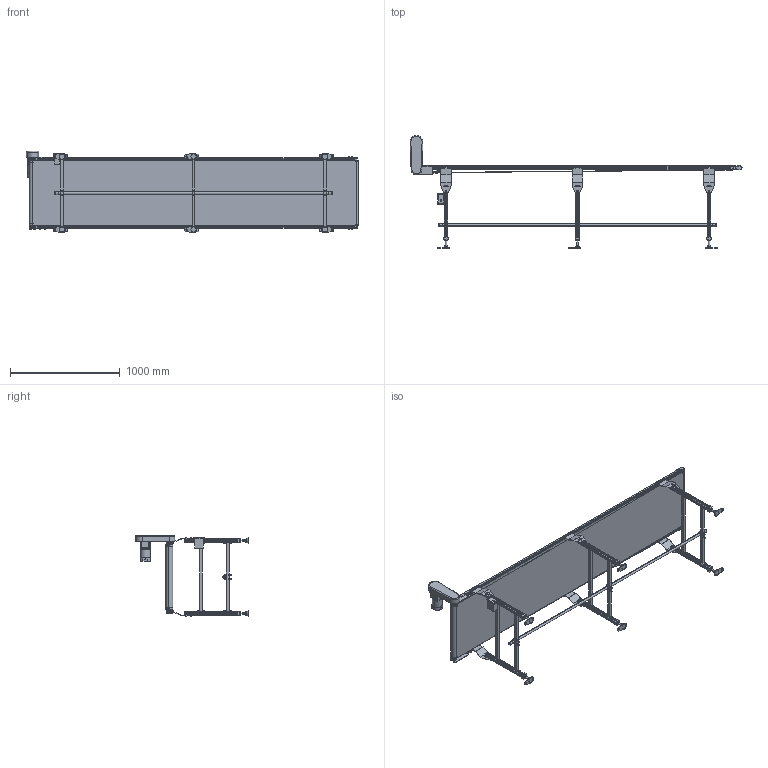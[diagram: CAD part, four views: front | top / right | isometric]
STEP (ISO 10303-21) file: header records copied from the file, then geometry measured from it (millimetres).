
FILE_DESCRIPTION( (''), '2;1');
FILE_NAME ('MB21-OD-306-600-300-L-K-100-O.stp','2025-02-17T10:29:11',(''),(''),'spGate 20.6.2 (****-****-****-****)','','');
FILE_SCHEMA (('AUTOMOTIVE_DESIGN'));
Length unit declared in the file: millimetre
Products named in the file (51): NewModel; MB21-OD-600-3000-L; TEMP_X_T-prt0; TEMP_X_T-prt1; TEMP_X_T-prt2; TEMP_X_T-prt3; TEMP_X_T-prt4; TEMP_X_T-prt5; TEMP_X_T-prt6; TEMP_X_T-prt7; TEMP_X_T-prt8; TEMP_X_T-prt9; TEMP_X_T-prt10; TEMP_X_T-prt11; TEMP_X_T-prt12; TEMP_X_T-prt13; TEMP_X_T-prt14; TEMP_X_T-prt15; TEMP_X_T-prt16; TEMP_X_T-prt17; TEMP_X_T-prt18; TEMP_X_T-prt19; TEMP_X_T-prt20; TEMP_X_T-prt21; TEMP_X_T-prt22; TEMP_X_T-prt23; TEMP_X_T-prt24; TEMP_X_T-prt25; TEMP_X_T-prt26; TEMP_X_T-prt27; TEMP_X_T-prt28; TEMP_X_T-prt29; TEMP_X_T-prt30; TEMP_X_T-prt31; TEMP_X_T-prt32; TEMP_X_T-prt33; TEMP_X_T-prt34; TEMP_X_T-prt35; TEMP_X_T-prt36; TEMP_X_T-prt37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
Assembly tree (50 placements, depth 3):
  NewModel
    MB21-OD-600-3000-L
      TEMP_X_T-prt0
      TEMP_X_T-prt1
      TEMP_X_T-prt2
      TEMP_X_T-prt3
      TEMP_X_T-prt4
      TEMP_X_T-prt5
      TEMP_X_T-prt6
      TEMP_X_T-prt7
      TEMP_X_T-prt8
      TEMP_X_T-prt9
      TEMP_X_T-prt10
      TEMP_X_T-prt11
      TEMP_X_T-prt12
      TEMP_X_T-prt13
      TEMP_X_T-prt14
      TEMP_X_T-prt15
      TEMP_X_T-prt16
      TEMP_X_T-prt17
      TEMP_X_T-prt18
      TEMP_X_T-prt19
      TEMP_X_T-prt20
      TEMP_X_T-prt21
      TEMP_X_T-prt22
      TEMP_X_T-prt23
      TEMP_X_T-prt24
      TEMP_X_T-prt25
      TEMP_X_T-prt26
      TEMP_X_T-prt27
      TEMP_X_T-prt28
      TEMP_X_T-prt29
      TEMP_X_T-prt30
      TEMP_X_T-prt31
      TEMP_X_T-prt32
      TEMP_X_T-prt33
      TEMP_X_T-prt34
      TEMP_X_T-prt35
      TEMP_X_T-prt36
      TEMP_X_T-prt37
      TEMP_X_T-prt38
      TEMP_X_T-prt39
      TEMP_X_T-prt40
      TEMP_X_T-prt41
      TEMP_X_T-prt42
      TEMP_X_T-prt43
      TEMP_X_T-prt44
      TEMP_X_T-prt45
      TEMP_X_T-prt46
      TEMP_X_T-prt47
      TEMP_X_T-prt48
Bounding box: 3029.65 x 1028.79 x 745.7 mm (x, y, z)
Volume: 22608133.1 mm3; surface area: 14057035 mm2
Topology: 49 solids, 49 shells, 2505 faces, 6265 edges, 4040 vertices
Faces by surface type: plane 1825, cylinder 561, bspline 119
Entity records: 128471 total; most frequent: CARTESIAN_POINT 16712, ORIENTED_EDGE 12490, DIRECTION 12022, COLOUR_RGB 8799, PRESENTATION_STYLE_ASSIGNMENT 8799, STYLED_ITEM 8799, EDGE_CURVE 6245, DRAUGHTING_PRE_DEFINED_CURVE_FONT 6245
